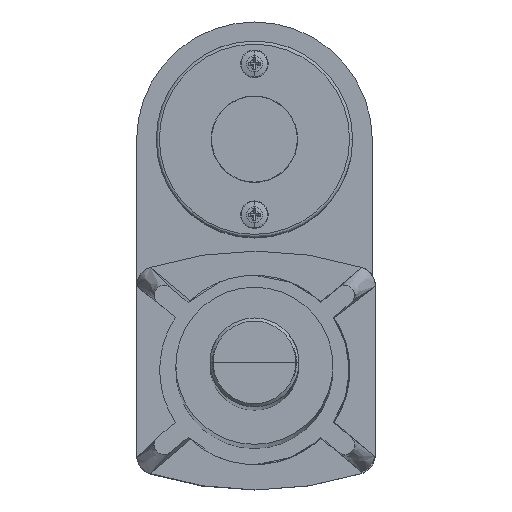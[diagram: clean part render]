
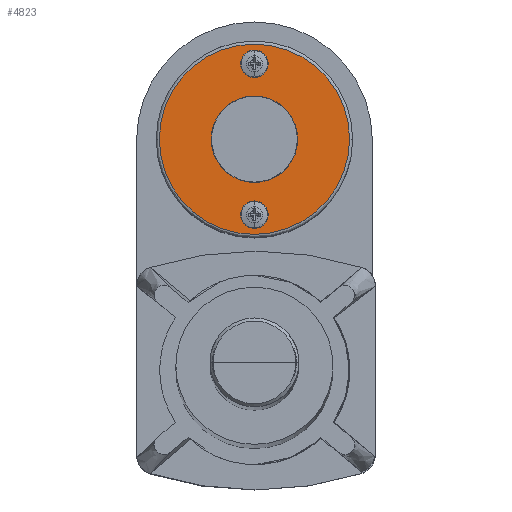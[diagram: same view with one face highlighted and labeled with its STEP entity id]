
A CAD part, top view. The second image highlights one B-rep face of the part: STEP entity #4823.
In plain terms, the highlighted planar face has unit normal (0, 0, 1).
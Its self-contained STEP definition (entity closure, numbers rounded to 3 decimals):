
#72 = DIRECTION ( 'NONE',  ( -1., 0., 0. ) ) ;
#185 = CARTESIAN_POINT ( 'NONE',  ( 69.358, -31.638, 406.098 ) ) ;
#299 = DIRECTION ( 'NONE',  ( 0., 0., 1. ) ) ;
#399 = EDGE_LOOP ( 'NONE', ( #4200, #9477 ) ) ;
#410 = DIRECTION ( 'NONE',  ( 0., 0., 1. ) ) ;
#430 = FACE_BOUND ( 'NONE', #399, .T. ) ;
#594 = VERTEX_POINT ( 'NONE', #2869 ) ;
#729 = CARTESIAN_POINT ( 'NONE',  ( 7.858, -31.638, 406.098 ) ) ;
#973 = FACE_BOUND ( 'NONE', #7653, .T. ) ;
#1206 = EDGE_CURVE ( 'NONE', #9716, #11237, #5986, .T. ) ;
#1384 = AXIS2_PLACEMENT_3D ( 'NONE', #7898, #1846, #72 ) ;
#1487 = DIRECTION ( 'NONE',  ( -1., 0., 0. ) ) ;
#1551 = VERTEX_POINT ( 'NONE', #9364 ) ;
#1668 = CIRCLE ( 'NONE', #5994, 2.54 ) ;
#1846 = DIRECTION ( 'NONE',  ( 0., 0., 1. ) ) ;
#1904 = EDGE_CURVE ( 'NONE', #594, #10983, #5279, .T. ) ;
#2583 = CIRCLE ( 'NONE', #1384, 30.75 ) ;
#2869 = CARTESIAN_POINT ( 'NONE',  ( 36.068, -7.238, 406.098 ) ) ;
#3118 = DIRECTION ( 'NONE',  ( -1., 0., 0. ) ) ;
#3614 = CARTESIAN_POINT ( 'NONE',  ( 38.608, -56.038, 406.098 ) ) ;
#3757 = ORIENTED_EDGE ( 'NONE', *, *, #1206, .T. ) ;
#3781 = DIRECTION ( 'NONE',  ( 0., 0., 1. ) ) ;
#4039 = CARTESIAN_POINT ( 'NONE',  ( 38.608, -7.238, 406.098 ) ) ;
#4200 = ORIENTED_EDGE ( 'NONE', *, *, #5642, .F. ) ;
#4315 = DIRECTION ( 'NONE',  ( 0., 0., 1. ) ) ;
#4684 = FACE_OUTER_BOUND ( 'NONE', #10319, .T. ) ;
#4789 = AXIS2_PLACEMENT_3D ( 'NONE', #6418, #3781, #10763 ) ;
#4823 = ADVANCED_FACE ( 'NONE', ( #430, #973, #4684 ), #5663, .T. ) ;
#5152 = EDGE_CURVE ( 'NONE', #5222, #1551, #9350, .T. ) ;
#5209 = DIRECTION ( 'NONE',  ( -1., 0., 0. ) ) ;
#5222 = VERTEX_POINT ( 'NONE', #6413 ) ;
#5279 = CIRCLE ( 'NONE', #8622, 2.54 ) ;
#5474 = EDGE_CURVE ( 'NONE', #10983, #594, #9050, .T. ) ;
#5642 = EDGE_CURVE ( 'NONE', #1551, #5222, #1668, .T. ) ;
#5663 = PLANE ( 'NONE',  #7236 ) ;
#5839 = DIRECTION ( 'NONE',  ( 0., 0., 1. ) ) ;
#5986 = CIRCLE ( 'NONE', #4789, 30.75 ) ;
#5994 = AXIS2_PLACEMENT_3D ( 'NONE', #8287, #10953, #3118 ) ;
#6413 = CARTESIAN_POINT ( 'NONE',  ( 41.148, -56.038, 406.098 ) ) ;
#6418 = CARTESIAN_POINT ( 'NONE',  ( 38.608, -31.638, 406.098 ) ) ;
#7236 = AXIS2_PLACEMENT_3D ( 'NONE', #8236, #410, #10773 ) ;
#7436 = CARTESIAN_POINT ( 'NONE',  ( 38.608, -7.238, 406.098 ) ) ;
#7600 = ORIENTED_EDGE ( 'NONE', *, *, #5474, .F. ) ;
#7653 = EDGE_LOOP ( 'NONE', ( #8638, #7600 ) ) ;
#7898 = CARTESIAN_POINT ( 'NONE',  ( 38.608, -31.638, 406.098 ) ) ;
#8236 = CARTESIAN_POINT ( 'NONE',  ( 38.608, -31.638, 406.098 ) ) ;
#8287 = CARTESIAN_POINT ( 'NONE',  ( 38.608, -56.038, 406.098 ) ) ;
#8622 = AXIS2_PLACEMENT_3D ( 'NONE', #7436, #299, #10018 ) ;
#8638 = ORIENTED_EDGE ( 'NONE', *, *, #1904, .F. ) ;
#8722 = AXIS2_PLACEMENT_3D ( 'NONE', #4039, #5839, #1487 ) ;
#8967 = EDGE_CURVE ( 'NONE', #11237, #9716, #2583, .T. ) ;
#9050 = CIRCLE ( 'NONE', #8722, 2.54 ) ;
#9307 = AXIS2_PLACEMENT_3D ( 'NONE', #3614, #4315, #5209 ) ;
#9350 = CIRCLE ( 'NONE', #9307, 2.54 ) ;
#9364 = CARTESIAN_POINT ( 'NONE',  ( 36.068, -56.038, 406.098 ) ) ;
#9465 = ORIENTED_EDGE ( 'NONE', *, *, #8967, .T. ) ;
#9477 = ORIENTED_EDGE ( 'NONE', *, *, #5152, .F. ) ;
#9716 = VERTEX_POINT ( 'NONE', #729 ) ;
#10018 = DIRECTION ( 'NONE',  ( -1., 0., 0. ) ) ;
#10319 = EDGE_LOOP ( 'NONE', ( #3757, #9465 ) ) ;
#10763 = DIRECTION ( 'NONE',  ( -1., 0., 0. ) ) ;
#10773 = DIRECTION ( 'NONE',  ( -1., 0., 0. ) ) ;
#10953 = DIRECTION ( 'NONE',  ( 0., 0., 1. ) ) ;
#10983 = VERTEX_POINT ( 'NONE', #11221 ) ;
#11221 = CARTESIAN_POINT ( 'NONE',  ( 41.148, -7.238, 406.098 ) ) ;
#11237 = VERTEX_POINT ( 'NONE', #185 ) ;
